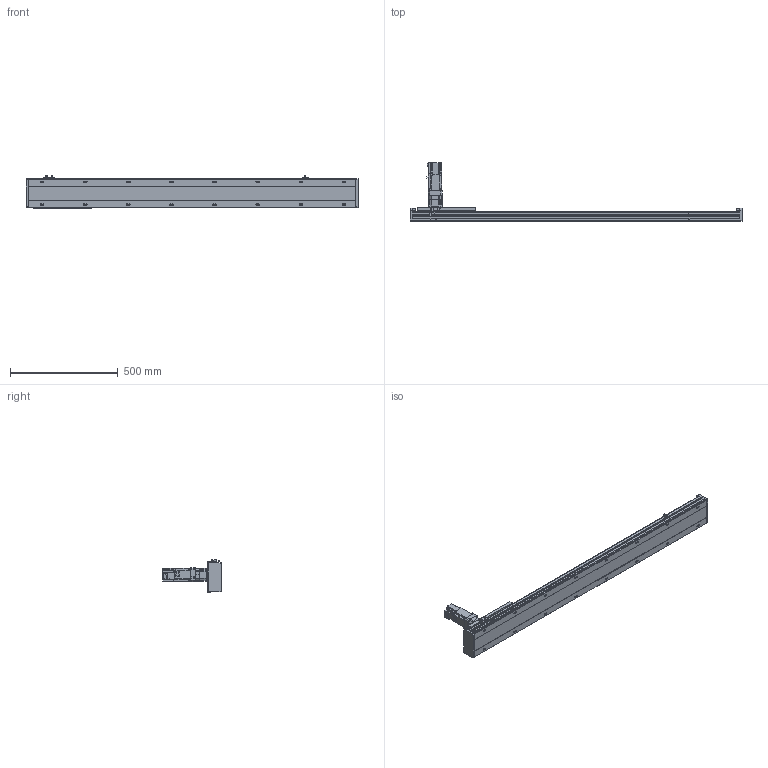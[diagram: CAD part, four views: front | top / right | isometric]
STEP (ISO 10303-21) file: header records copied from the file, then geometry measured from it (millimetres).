
FILE_DESCRIPTION(/* description */ ('STEP AP203'),/* implementation_level */ '2;1');
FILE_NAME(/* name */ 'SHS14A-L10-S1200-BC-T40-C1-N(0)',/* time_stamp */ '2023-03-27T08:48:51+02:00',/* author */ ('License CC BY-ND 4.0'),/* organization */ ('CADENAS'),/* preprocessor_version */ 'ST-DEVELOPER v19.3',/* originating_system */ 'PARTsolutions',/* authorisation */ ' ');
FILE_SCHEMA (('CONFIG_CONTROL_DESIGN'));
Length unit declared in the file: millimetre
Products named in the file (7): SHS14A-L10-S1200-BC-T40-C1-N(0); PSC140-sensor; T40-p1; SHS14AT_body3; SHS14A-1200_slider; SHS14A_body2; SHS14A-S1200-BC-T40-C1(0)_body
Assembly tree (13 placements, depth 2):
  SHS14A-L10-S1200-BC-T40-C1-N(0)
    PSC140-sensor  x3
    T40-p1
    SHS14AT_body3
    SHS14A-1200_slider
    SHS14A_body2  x6
    SHS14A-S1200-BC-T40-C1(0)_body
Bounding box: 1540 x 272.7 x 150.9 mm (x, y, z)
Volume: 7057152.8 mm3; surface area: 1121831.9 mm2
Topology: 13 solids, 13 shells, 2028 faces, 5183 edges, 3390 vertices
Faces by surface type: plane 1443, cylinder 507, cone 68, torus 10
Full cylindrical faces by diameter (mm): 2.8 x3, 4.134 x24, 4.2 x7, 4.4 x24, 4.5 x24, 4.6 x3, 4.8 x24, 4.917 x24, 5 x8, 5.5 x11, 5.94 x6, 6 x2, 6.6 x16, 8 x24, 8.49 x4, 8.5 x4, 9 x4, 10.5 x16, 13.964 x1, 14 x1, 14.182 x1, 16 x1, 18.974 x1, 19.274 x1, 19.774 x1, 19.8 x1, 34.442 x1, 42 x1, 50 x5
Entity records: 31586 total; most frequent: CARTESIAN_POINT 5562, DIRECTION 5343, ORIENTED_EDGE 4962, EDGE_CURVE 2481, AXIS2_PLACEMENT_3D 1825, VERTEX_POINT 1756, LINE 1693, VECTOR 1693
